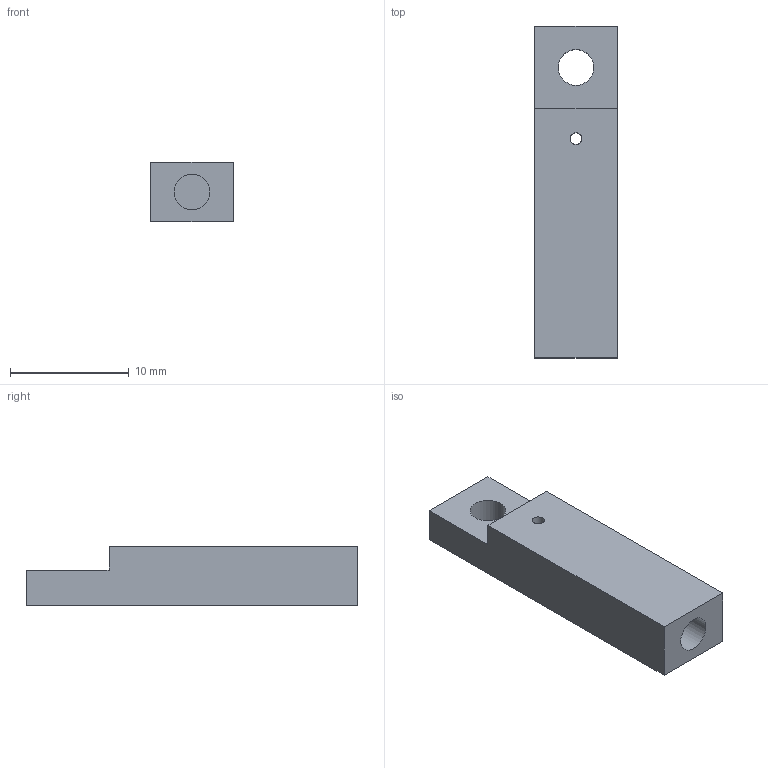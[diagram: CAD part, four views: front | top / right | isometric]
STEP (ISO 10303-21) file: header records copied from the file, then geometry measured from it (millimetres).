
FILE_DESCRIPTION(('FreeCAD Model'),'2;1');
FILE_NAME('Open CASCADE Shape Model','2025-06-13T13:34:15',(''),(''), 'Open CASCADE STEP processor 7.6','FreeCAD','Unknown');
FILE_SCHEMA(('CONFIG_CONTROL_DESIGN','SHAPE_APPEARANCE_LAYER_MIM'));
Length unit declared in the file: millimetre
Products named in the file (1): TemperatureSensorAttachment
Bounding box: 7 x 28 x 5 mm (x, y, z)
Volume: 717.8 mm3; surface area: 920 mm2
Topology: 1 solids, 1 shells, 13 faces, 31 edges, 21 vertices
Faces by surface type: plane 9, cylinder 4
Full cylindrical faces by diameter (mm): 1 x2, 3 x2
Entity records: 560 total; most frequent: CARTESIAN_POINT 190, DIRECTION 62, ORIENTED_EDGE 62, EDGE_CURVE 31, AXIS2_PLACEMENT_3D 21, VERTEX_POINT 21, FACE_BOUND 20, EDGE_LOOP 20
